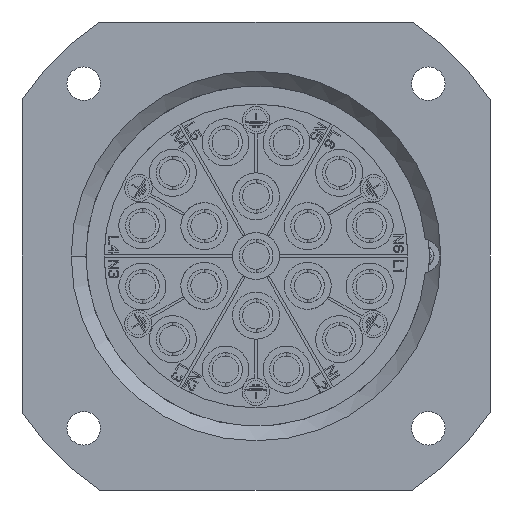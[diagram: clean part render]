
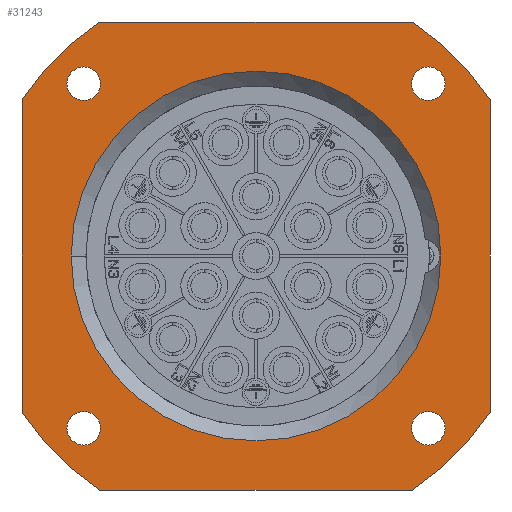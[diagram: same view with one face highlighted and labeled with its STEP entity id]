
A CAD part, left-side view. The second image highlights one B-rep face of the part: STEP entity #31243.
In plain terms, the highlighted planar face has unit normal (-1, 0, 0).
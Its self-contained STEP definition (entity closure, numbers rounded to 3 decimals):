
#1354=DIRECTION('',(0.,1.,0.));
#1355=VECTOR('',#1354,37.236);
#1356=CARTESIAN_POINT('',(0.,-18.618,-27.85));
#1357=LINE('',#1356,#1355);
#1358=CARTESIAN_POINT('',(0.,0.,0.));
#1359=DIRECTION('',(1.,0.,0.));
#1360=DIRECTION('',(0.,0.556,-0.831));
#1361=AXIS2_PLACEMENT_3D('',#1358,#1359,#1360);
#1363=DIRECTION('',(0.,0.,1.));
#1364=VECTOR('',#1363,37.236);
#1365=CARTESIAN_POINT('',(0.,27.85,-18.618));
#1366=LINE('',#1365,#1364);
#1367=CARTESIAN_POINT('',(0.,0.,0.));
#1368=DIRECTION('',(1.,0.,0.));
#1369=DIRECTION('',(0.,0.831,0.556));
#1370=AXIS2_PLACEMENT_3D('',#1367,#1368,#1369);
#1372=DIRECTION('',(0.,-1.,0.));
#1373=VECTOR('',#1372,37.236);
#1374=CARTESIAN_POINT('',(0.,18.618,27.85));
#1375=LINE('',#1374,#1373);
#1376=CARTESIAN_POINT('',(0.,0.,0.));
#1377=DIRECTION('',(1.,0.,0.));
#1378=DIRECTION('',(0.,-0.556,0.831));
#1379=AXIS2_PLACEMENT_3D('',#1376,#1377,#1378);
#1381=DIRECTION('',(0.,0.,-1.));
#1382=VECTOR('',#1381,37.236);
#1383=CARTESIAN_POINT('',(0.,-27.85,18.618));
#1384=LINE('',#1383,#1382);
#1385=CARTESIAN_POINT('',(0.,0.,0.));
#1386=DIRECTION('',(1.,0.,0.));
#1387=DIRECTION('',(0.,-0.831,-0.556));
#1388=AXIS2_PLACEMENT_3D('',#1385,#1386,#1387);
#1390=CARTESIAN_POINT('',(0.,0.,0.));
#1391=DIRECTION('',(-1.,0.,0.));
#1392=DIRECTION('',(0.,-1.,0.));
#1393=AXIS2_PLACEMENT_3D('',#1390,#1391,#1392);
#1395=CARTESIAN_POINT('',(0.,0.,0.));
#1396=DIRECTION('',(-1.,0.,0.));
#1397=DIRECTION('',(0.,1.,0.));
#1398=AXIS2_PLACEMENT_3D('',#1395,#1396,#1397);
#1400=CARTESIAN_POINT('',(0.,-20.5,-20.5));
#1401=DIRECTION('',(-1.,0.,0.));
#1402=DIRECTION('',(0.,1.,0.));
#1403=AXIS2_PLACEMENT_3D('',#1400,#1401,#1402);
#1405=CARTESIAN_POINT('',(0.,-20.5,-20.5));
#1406=DIRECTION('',(-1.,0.,0.));
#1407=DIRECTION('',(0.,-1.,0.));
#1408=AXIS2_PLACEMENT_3D('',#1405,#1406,#1407);
#1410=CARTESIAN_POINT('',(0.,-20.5,20.5));
#1411=DIRECTION('',(-1.,0.,0.));
#1412=DIRECTION('',(0.,1.,0.));
#1413=AXIS2_PLACEMENT_3D('',#1410,#1411,#1412);
#1415=CARTESIAN_POINT('',(0.,-20.5,20.5));
#1416=DIRECTION('',(-1.,0.,0.));
#1417=DIRECTION('',(0.,-1.,0.));
#1418=AXIS2_PLACEMENT_3D('',#1415,#1416,#1417);
#1420=CARTESIAN_POINT('',(0.,20.5,-20.5));
#1421=DIRECTION('',(-1.,0.,0.));
#1422=DIRECTION('',(0.,1.,0.));
#1423=AXIS2_PLACEMENT_3D('',#1420,#1421,#1422);
#1425=CARTESIAN_POINT('',(0.,20.5,-20.5));
#1426=DIRECTION('',(-1.,0.,0.));
#1427=DIRECTION('',(0.,-1.,0.));
#1428=AXIS2_PLACEMENT_3D('',#1425,#1426,#1427);
#1430=CARTESIAN_POINT('',(0.,20.5,20.5));
#1431=DIRECTION('',(-1.,0.,0.));
#1432=DIRECTION('',(0.,1.,0.));
#1433=AXIS2_PLACEMENT_3D('',#1430,#1431,#1432);
#1435=CARTESIAN_POINT('',(0.,20.5,20.5));
#1436=DIRECTION('',(-1.,0.,0.));
#1437=DIRECTION('',(0.,-1.,0.));
#1438=AXIS2_PLACEMENT_3D('',#1435,#1436,#1437);
#22897=CARTESIAN_POINT('',(0.,18.618,-27.85));
#22898=VERTEX_POINT('',#22897);
#22899=CARTESIAN_POINT('',(0.,27.85,-18.618));
#22900=VERTEX_POINT('',#22899);
#22901=CARTESIAN_POINT('',(0.,18.618,27.85));
#22902=VERTEX_POINT('',#22901);
#22903=CARTESIAN_POINT('',(0.,27.85,18.618));
#22904=VERTEX_POINT('',#22903);
#22905=CARTESIAN_POINT('',(0.,-27.85,18.618));
#22906=VERTEX_POINT('',#22905);
#22907=CARTESIAN_POINT('',(0.,-18.618,27.85));
#22908=VERTEX_POINT('',#22907);
#22909=CARTESIAN_POINT('',(0.,-18.618,-27.85));
#22910=VERTEX_POINT('',#22909);
#22911=CARTESIAN_POINT('',(0.,-27.85,-18.618));
#22912=VERTEX_POINT('',#22911);
#22913=CARTESIAN_POINT('',(0.,-22.,0.));
#22914=CARTESIAN_POINT('',(0.,22.,0.));
#22915=VERTEX_POINT('',#22913);
#22916=VERTEX_POINT('',#22914);
#22917=CARTESIAN_POINT('',(0.,-18.5,-20.5));
#22918=CARTESIAN_POINT('',(0.,-22.5,-20.5));
#22919=VERTEX_POINT('',#22917);
#22920=VERTEX_POINT('',#22918);
#22921=CARTESIAN_POINT('',(0.,-18.5,20.5));
#22922=CARTESIAN_POINT('',(0.,-22.5,20.5));
#22923=VERTEX_POINT('',#22921);
#22924=VERTEX_POINT('',#22922);
#22925=CARTESIAN_POINT('',(0.,22.5,-20.5));
#22926=CARTESIAN_POINT('',(0.,18.5,-20.5));
#22927=VERTEX_POINT('',#22925);
#22928=VERTEX_POINT('',#22926);
#22929=CARTESIAN_POINT('',(0.,22.5,20.5));
#22930=CARTESIAN_POINT('',(0.,18.5,20.5));
#22931=VERTEX_POINT('',#22929);
#22932=VERTEX_POINT('',#22930);
#31198=CARTESIAN_POINT('',(0.,0.,0.));
#31199=DIRECTION('',(1.,0.,0.));
#31200=DIRECTION('',(0.,-1.,0.));
#31201=AXIS2_PLACEMENT_3D('',#31198,#31199,#31200);
#31202=PLANE('',#31201);
#31203=ORIENTED_EDGE('',*,*,#31094,.T.);
#31204=ORIENTED_EDGE('',*,*,#31110,.T.);
#31205=ORIENTED_EDGE('',*,*,#31123,.T.);
#31206=ORIENTED_EDGE('',*,*,#31136,.T.);
#31207=ORIENTED_EDGE('',*,*,#31151,.T.);
#31208=ORIENTED_EDGE('',*,*,#31164,.T.);
#31209=ORIENTED_EDGE('',*,*,#31179,.T.);
#31210=ORIENTED_EDGE('',*,*,#31191,.T.);
#31211=EDGE_LOOP('',(#31203,#31204,#31205,#31206,#31207,#31208,#31209,#31210));
#31212=FACE_OUTER_BOUND('',#31211,.F.);
#31214=ORIENTED_EDGE('',*,*,#31213,.T.);
#31216=ORIENTED_EDGE('',*,*,#31215,.T.);
#31217=EDGE_LOOP('',(#31214,#31216));
#31218=FACE_BOUND('',#31217,.F.);
#31220=ORIENTED_EDGE('',*,*,#31219,.T.);
#31222=ORIENTED_EDGE('',*,*,#31221,.T.);
#31223=EDGE_LOOP('',(#31220,#31222));
#31224=FACE_BOUND('',#31223,.F.);
#31226=ORIENTED_EDGE('',*,*,#31225,.T.);
#31228=ORIENTED_EDGE('',*,*,#31227,.T.);
#31229=EDGE_LOOP('',(#31226,#31228));
#31230=FACE_BOUND('',#31229,.F.);
#31232=ORIENTED_EDGE('',*,*,#31231,.T.);
#31234=ORIENTED_EDGE('',*,*,#31233,.T.);
#31235=EDGE_LOOP('',(#31232,#31234));
#31236=FACE_BOUND('',#31235,.F.);
#31238=ORIENTED_EDGE('',*,*,#31237,.T.);
#31240=ORIENTED_EDGE('',*,*,#31239,.T.);
#31241=EDGE_LOOP('',(#31238,#31240));
#31242=FACE_BOUND('',#31241,.F.);
#31243=ADVANCED_FACE('',(#31212,#31218,#31224,#31230,#31236,#31242),#31202,.F.);
#1362=CIRCLE('',#1361,33.5);
#1371=CIRCLE('',#1370,33.5);
#1380=CIRCLE('',#1379,33.5);
#1389=CIRCLE('',#1388,33.5);
#1394=CIRCLE('',#1393,22.);
#1399=CIRCLE('',#1398,22.);
#1404=CIRCLE('',#1403,2.);
#1409=CIRCLE('',#1408,2.);
#1414=CIRCLE('',#1413,2.);
#1419=CIRCLE('',#1418,2.);
#1424=CIRCLE('',#1423,2.);
#1429=CIRCLE('',#1428,2.);
#1434=CIRCLE('',#1433,2.);
#1439=CIRCLE('',#1438,2.);
#31094=EDGE_CURVE('',#22910,#22898,#1357,.T.);
#31110=EDGE_CURVE('',#22898,#22900,#1362,.T.);
#31123=EDGE_CURVE('',#22900,#22904,#1366,.T.);
#31136=EDGE_CURVE('',#22904,#22902,#1371,.T.);
#31151=EDGE_CURVE('',#22902,#22908,#1375,.T.);
#31164=EDGE_CURVE('',#22908,#22906,#1380,.T.);
#31179=EDGE_CURVE('',#22906,#22912,#1384,.T.);
#31191=EDGE_CURVE('',#22912,#22910,#1389,.T.);
#31213=EDGE_CURVE('',#22915,#22916,#1394,.T.);
#31215=EDGE_CURVE('',#22916,#22915,#1399,.T.);
#31219=EDGE_CURVE('',#22919,#22920,#1404,.T.);
#31221=EDGE_CURVE('',#22920,#22919,#1409,.T.);
#31225=EDGE_CURVE('',#22923,#22924,#1414,.T.);
#31227=EDGE_CURVE('',#22924,#22923,#1419,.T.);
#31231=EDGE_CURVE('',#22927,#22928,#1424,.T.);
#31233=EDGE_CURVE('',#22928,#22927,#1429,.T.);
#31237=EDGE_CURVE('',#22931,#22932,#1434,.T.);
#31239=EDGE_CURVE('',#22932,#22931,#1439,.T.);
